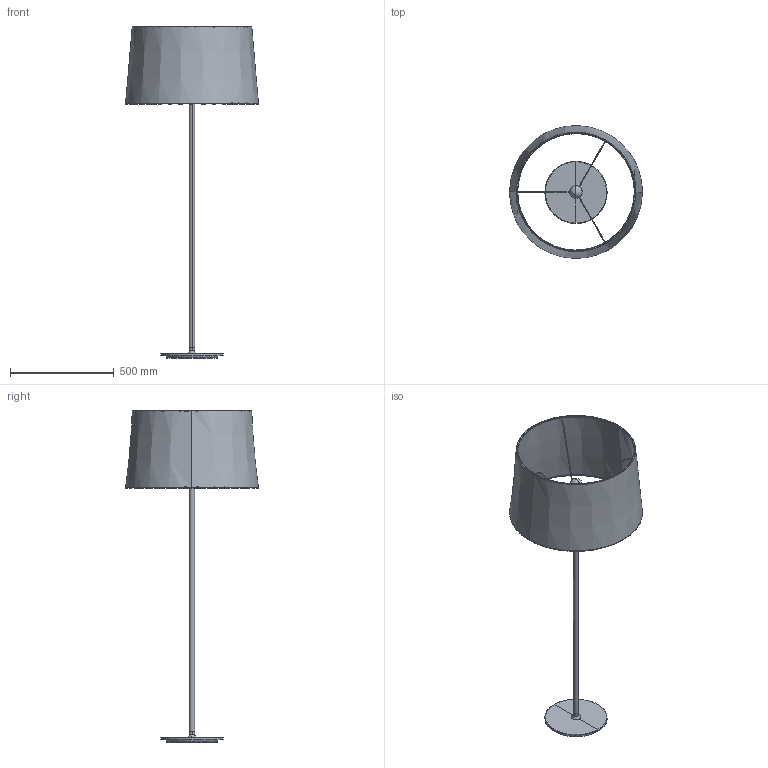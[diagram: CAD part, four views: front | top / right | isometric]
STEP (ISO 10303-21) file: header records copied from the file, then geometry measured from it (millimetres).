
FILE_DESCRIPTION(/* description */ (''),/* implementation_level */ '2;1');
FILE_NAME(/* name */ 'windsorf_floorlamp.step',/* time_stamp */ '2024-11-14T16:17:21+01:00',/* author */ ('RenataManzini'),/* organization */ (''),/* preprocessor_version */ 'ST-DEVELOPER v20',/* originating_system */ 'AutoCAD Mechanical',/* authorisation */ '');
FILE_SCHEMA (('AUTOMOTIVE_DESIGN { 1 0 10303 214 3 1 1 }'));
Length unit declared in the file: millimetre
Products named in the file (3): Product; Windsor - FLOOR STRUCTURE-456863-_3D_; pantalla_20226-7 - WINDSOR shade-456864-_3D_
Assembly tree (2 placements, depth 2):
  Product
    Windsor - FLOOR STRUCTURE-456863-_3D_
    pantalla_20226-7 - WINDSOR shade-456864-_3D_
Bounding box: 641.06 x 641.06 x 1601.54 mm (x, y, z)
Volume: 2436581 mm3; surface area: 2005426.3 mm2
Topology: 15 solids, 15 shells, 210 faces, 422 edges, 236 vertices
Faces by surface type: cylinder 82, plane 54, torus 42, cone 22, bspline 10
Entity records: 13066 total; most frequent: CARTESIAN_POINT 8865, DIRECTION 836, ORIENTED_EDGE 828, EDGE_CURVE 414, AXIS2_PLACEMENT_3D 350, VERTEX_POINT 230, EDGE_LOOP 224, FACE_OUTER_BOUND 210
